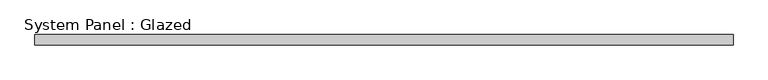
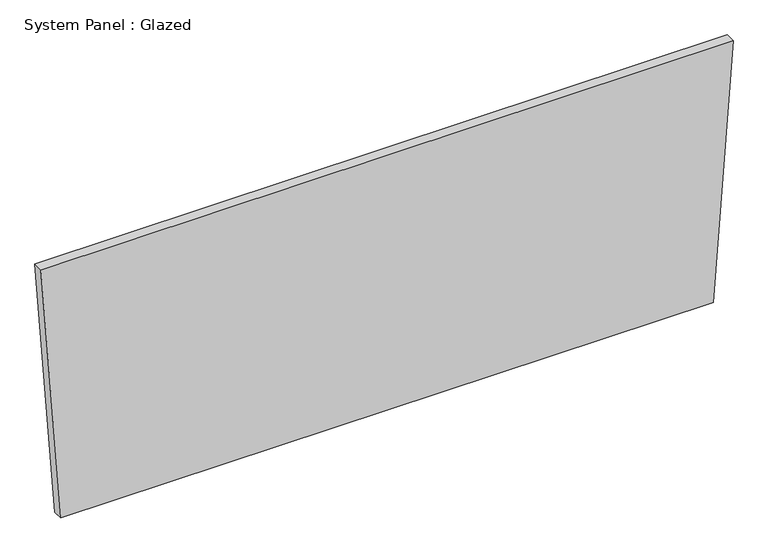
"""IFC4 building model written with IfcOpenShell, lengths in millimetres: plate geometry, System Panel : Glazed."""

from ifc_helpers import new_model, si_unit, frame, origin, place, context, project, spatial, polyline, outline, extrude, source, transform, mapped, element, save


def system_panel_glazed_abaf4edb(model_context):
    return source(origin(), model_context, "Body", "SweptSolid", [
        extrude(outline(polyline([(0.00117, -802.6621383), (0.0, 802.6620512), (663.9474017, 852.1169768), (663.9474017, -852.1169768), (0.00117, -802.6621383)])), frame((0.0, 19.05, 0.0), z_axis=(0.0, 1.0, 0.0), x_axis=(0.0, 0.0, 1.0)), (0.0, 0.0, 1.0), 25.4),
    ])


if __name__ == "__main__":
    model = new_model("IFC4")
    model_context = context("Model", 3, world=origin())
    ifc_project = project(units=[si_unit("LENGTHUNIT", "METRE", prefix="MILLI")], contexts=[model_context])
    site = spatial("IfcSite", under=ifc_project)
    building = spatial("IfcBuilding", under=site)
    placement = place(None, origin())
    system_panel_glazed_shape = system_panel_glazed_abaf4edb(model_context)
    element("IfcPlate", 1, ObjectType="System Panel : Glazed", at=placement, inside=building, context=model_context, shape_type="MappedRepresentation", body=[
        mapped(system_panel_glazed_shape, transform((0.0, 0.0, 0.0), x_axis=(1.0, 0.0, 0.0), y_axis=(0.0, 1.0, 0.0), z_axis=(0.0, 0.0, 1.0))),
    ])
    save(model, "model.ifc")
